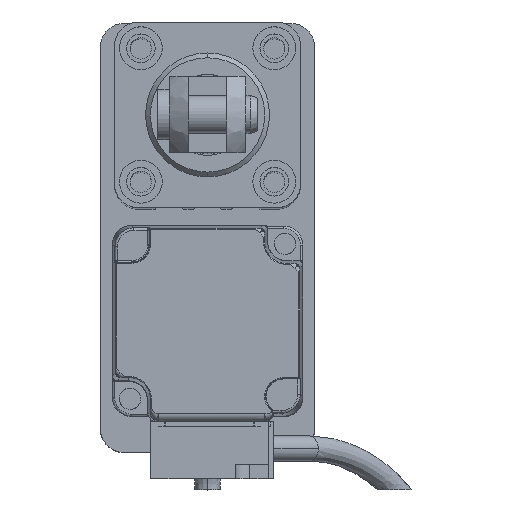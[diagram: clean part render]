
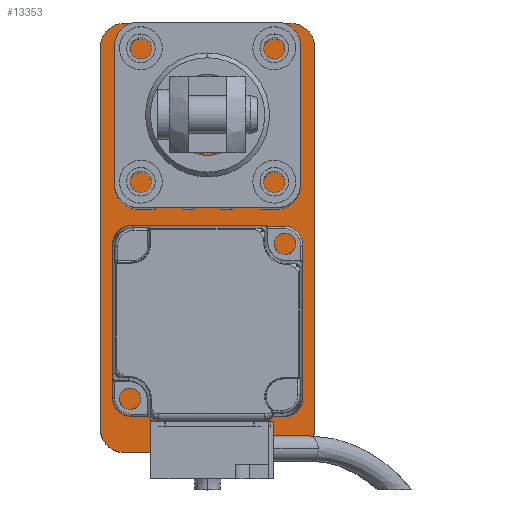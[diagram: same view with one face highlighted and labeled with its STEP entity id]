
A CAD part, top view. The second image highlights one B-rep face of the part: STEP entity #13353.
In plain terms, the highlighted planar face has unit normal (0, 0, 1).
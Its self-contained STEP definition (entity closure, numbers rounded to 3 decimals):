
#149 = DIRECTION ( 'NONE',  ( 0., 0., 1. ) ) ;
#684 = DIRECTION ( 'NONE',  ( 0., 0., 1. ) ) ;
#735 = EDGE_CURVE ( 'NONE', #6087, #12307, #11357, .T. ) ;
#1189 = LINE ( 'NONE', #32128, #25486 ) ;
#1454 = CARTESIAN_POINT ( 'NONE',  ( -17.5, 40., 10. ) ) ;
#2227 = EDGE_CURVE ( 'NONE', #12307, #17037, #1189, .T. ) ;
#3354 = DIRECTION ( 'NONE',  ( 0., -1., 0. ) ) ;
#3479 = CARTESIAN_POINT ( 'NONE',  ( -22.5, -45., 10. ) ) ;
#4146 = ORIENTED_EDGE ( 'NONE', *, *, #10772, .T. ) ;
#5300 = CIRCLE ( 'NONE', #12256, 5. ) ;
#5710 = EDGE_LOOP ( 'NONE', ( #24286, #25389, #16764, #4146, #15998, #31817, #32144, #25812 ) ) ;
#6087 = VERTEX_POINT ( 'NONE', #10938 ) ;
#6254 = DIRECTION ( 'NONE',  ( 1., 0., 0. ) ) ;
#6751 = EDGE_CURVE ( 'NONE', #14323, #20693, #12280, .T. ) ;
#6815 = DIRECTION ( 'NONE',  ( -1., 0., 0. ) ) ;
#7070 = DIRECTION ( 'NONE',  ( 0., 0., 1. ) ) ;
#8001 = CARTESIAN_POINT ( 'NONE',  ( -17.5, -45., 10. ) ) ;
#8030 = EDGE_CURVE ( 'NONE', #14507, #15972, #32538, .T. ) ;
#8413 = CARTESIAN_POINT ( 'NONE',  ( 22.5, 40., 10. ) ) ;
#8722 = CARTESIAN_POINT ( 'NONE',  ( -17.5, -40., 10. ) ) ;
#9025 = AXIS2_PLACEMENT_3D ( 'NONE', #12921, #149, #15966 ) ;
#9689 = CARTESIAN_POINT ( 'NONE',  ( 17.5, 40., 10. ) ) ;
#10772 = EDGE_CURVE ( 'NONE', #20693, #15749, #11145, .T. ) ;
#10938 = CARTESIAN_POINT ( 'NONE',  ( 17.5, -45., 10. ) ) ;
#11145 = CIRCLE ( 'NONE', #30863, 5. ) ;
#11357 = CIRCLE ( 'NONE', #9025, 5. ) ;
#11360 = CARTESIAN_POINT ( 'NONE',  ( 22.5, 45., 10. ) ) ;
#12256 = AXIS2_PLACEMENT_3D ( 'NONE', #9689, #7070, #17634 ) ;
#12280 = LINE ( 'NONE', #11360, #17173 ) ;
#12307 = VERTEX_POINT ( 'NONE', #19911 ) ;
#12360 = VECTOR ( 'NONE', #3354, 1000. ) ;
#12921 = CARTESIAN_POINT ( 'NONE',  ( 17.5, -40., 10. ) ) ;
#13353 = ADVANCED_FACE ( 'NONE', ( #25635 ), #31832, .T. ) ;
#14212 = EDGE_CURVE ( 'NONE', #17037, #14323, #5300, .T. ) ;
#14323 = VERTEX_POINT ( 'NONE', #20135 ) ;
#14507 = VERTEX_POINT ( 'NONE', #23967 ) ;
#15148 = LINE ( 'NONE', #3479, #12360 ) ;
#15749 = VERTEX_POINT ( 'NONE', #22664 ) ;
#15966 = DIRECTION ( 'NONE',  ( 1., 0., 0. ) ) ;
#15972 = VERTEX_POINT ( 'NONE', #8001 ) ;
#15998 = ORIENTED_EDGE ( 'NONE', *, *, #23193, .T. ) ;
#16296 = DIRECTION ( 'NONE',  ( 1., 0., 0. ) ) ;
#16764 = ORIENTED_EDGE ( 'NONE', *, *, #6751, .T. ) ;
#16855 = CARTESIAN_POINT ( 'NONE',  ( 22.5, -45., 10. ) ) ;
#16861 = DIRECTION ( 'NONE',  ( 0., 0., 1. ) ) ;
#17037 = VERTEX_POINT ( 'NONE', #8413 ) ;
#17173 = VECTOR ( 'NONE', #6815, 1000. ) ;
#17634 = DIRECTION ( 'NONE',  ( 1., 0., 0. ) ) ;
#19565 = DIRECTION ( 'NONE',  ( 1., 0., 0. ) ) ;
#19791 = VECTOR ( 'NONE', #19565, 1000. ) ;
#19911 = CARTESIAN_POINT ( 'NONE',  ( 22.5, -40., 10. ) ) ;
#20135 = CARTESIAN_POINT ( 'NONE',  ( 17.5, 45., 10. ) ) ;
#20693 = VERTEX_POINT ( 'NONE', #23883 ) ;
#21294 = CARTESIAN_POINT ( 'NONE',  ( 0., 0., 10. ) ) ;
#21601 = AXIS2_PLACEMENT_3D ( 'NONE', #21294, #684, #16296 ) ;
#22664 = CARTESIAN_POINT ( 'NONE',  ( -22.5, 40., 10. ) ) ;
#22736 = DIRECTION ( 'NONE',  ( 1., 0., 0. ) ) ;
#23193 = EDGE_CURVE ( 'NONE', #15749, #14507, #15148, .T. ) ;
#23883 = CARTESIAN_POINT ( 'NONE',  ( -17.5, 45., 10. ) ) ;
#23967 = CARTESIAN_POINT ( 'NONE',  ( -22.5, -40., 10. ) ) ;
#24229 = LINE ( 'NONE', #16855, #19791 ) ;
#24286 = ORIENTED_EDGE ( 'NONE', *, *, #2227, .T. ) ;
#25389 = ORIENTED_EDGE ( 'NONE', *, *, #14212, .T. ) ;
#25467 = AXIS2_PLACEMENT_3D ( 'NONE', #8722, #29253, #6254 ) ;
#25486 = VECTOR ( 'NONE', #32248, 1000. ) ;
#25635 = FACE_OUTER_BOUND ( 'NONE', #5710, .T. ) ;
#25812 = ORIENTED_EDGE ( 'NONE', *, *, #735, .T. ) ;
#29253 = DIRECTION ( 'NONE',  ( 0., 0., 1. ) ) ;
#30345 = EDGE_CURVE ( 'NONE', #15972, #6087, #24229, .T. ) ;
#30863 = AXIS2_PLACEMENT_3D ( 'NONE', #1454, #16861, #22736 ) ;
#31817 = ORIENTED_EDGE ( 'NONE', *, *, #8030, .T. ) ;
#31832 = PLANE ( 'NONE',  #21601 ) ;
#32128 = CARTESIAN_POINT ( 'NONE',  ( 22.5, -45., 10. ) ) ;
#32144 = ORIENTED_EDGE ( 'NONE', *, *, #30345, .T. ) ;
#32248 = DIRECTION ( 'NONE',  ( 0., 1., 0. ) ) ;
#32538 = CIRCLE ( 'NONE', #25467, 5. ) ;
